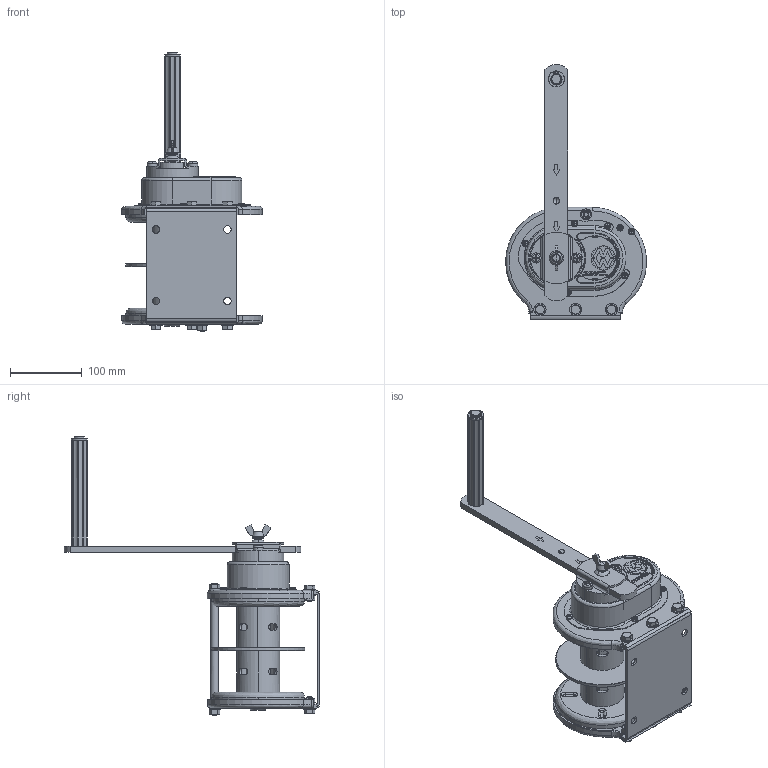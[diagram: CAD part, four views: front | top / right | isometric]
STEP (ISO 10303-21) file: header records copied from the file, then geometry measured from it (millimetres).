
FILE_DESCRIPTION( (''), '2;1');
FILE_NAME ('GM-1-NWD-SI.stp','2023-12-28T16:21:20',(''),(''),'spGate 19.8.2 (****-****-****-****)','','');
FILE_SCHEMA (('AUTOMOTIVE_DESIGN'));
Length unit declared in the file: millimetre
Products named in the file (4): Assembly; GM-1-NWD-SI-prt0; GM-1-NWD-SI-prt1; GM-1-NWD-SI-prt2
Assembly tree (3 placements, depth 2):
  Assembly
    GM-1-NWD-SI-prt0
    GM-1-NWD-SI-prt1
    GM-1-NWD-SI-prt2
Bounding box: 196.82 x 356.93 x 389.8 mm (x, y, z)
Volume: 1028167.4 mm3; surface area: 454405.5 mm2
Topology: 2 solids, 2 shells, 2440 faces, 6286 edges, 3950 vertices
Faces by surface type: plane 1097, cylinder 838, bspline 451, sphere 54
Entity records: 132066 total; most frequent: CARTESIAN_POINT 24529, ORIENTED_EDGE 12528, DIRECTION 11670, COLOUR_RGB 8707, PRESENTATION_STYLE_ASSIGNMENT 8707, STYLED_ITEM 8707, EDGE_CURVE 6264, DRAUGHTING_PRE_DEFINED_CURVE_FONT 6264
